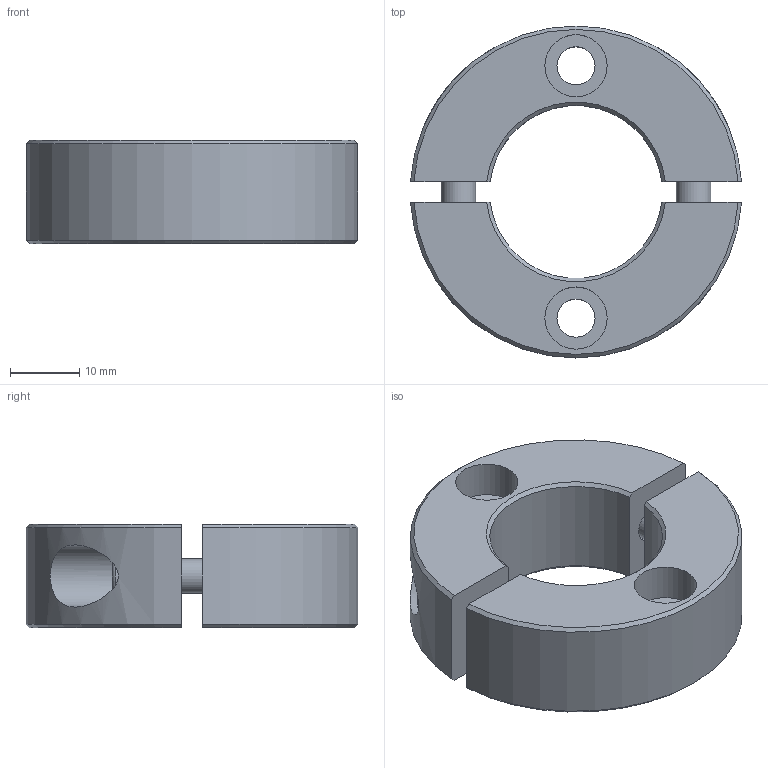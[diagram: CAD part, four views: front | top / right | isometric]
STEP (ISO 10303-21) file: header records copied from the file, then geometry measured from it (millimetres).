
FILE_DESCRIPTION( ( 'STEP AP203' ), '1' );
FILE_NAME( 'C:/Temp/Ganter_Step_05_03_2020/data/3_2/gn7072_2/Split Stainless Steel-Set collar GN 7072.2-48-B25-NI-B.stp', '2020-03-13T05:40:59', ( 'License CC BY-ND 4.0' ), ( 'CADENAS' ), ' ', 'PARTsolutions', ' ' );
FILE_SCHEMA( ( 'CONFIG_CONTROL_DESIGN' ) );
Length unit declared in the file: millimetre
Products named in the file (1): _Split Stainless Steel-Set collar GN 7072.2-48-B25-NI-B
Bounding box: 47.91 x 48 x 15 mm (x, y, z)
Volume: 16827.3 mm3; surface area: 8038.2 mm2
Topology: 1 solids, 1 shells, 56 faces, 131 edges, 89 vertices
Faces by surface type: plane 30, cylinder 16, cone 8, torus 2
Full cylindrical faces by diameter (mm): 5 x2, 5.4 x2, 5.5 x2, 8.5 x2, 9 x4
Entity records: 1696 total; most frequent: CARTESIAN_POINT 443, DIRECTION 246, ORIENTED_EDGE 220, EDGE_CURVE 110, AXIS2_PLACEMENT_3D 97, EDGE_LOOP 88, VERTEX_POINT 82, FACE_OUTER_BOUND 70
